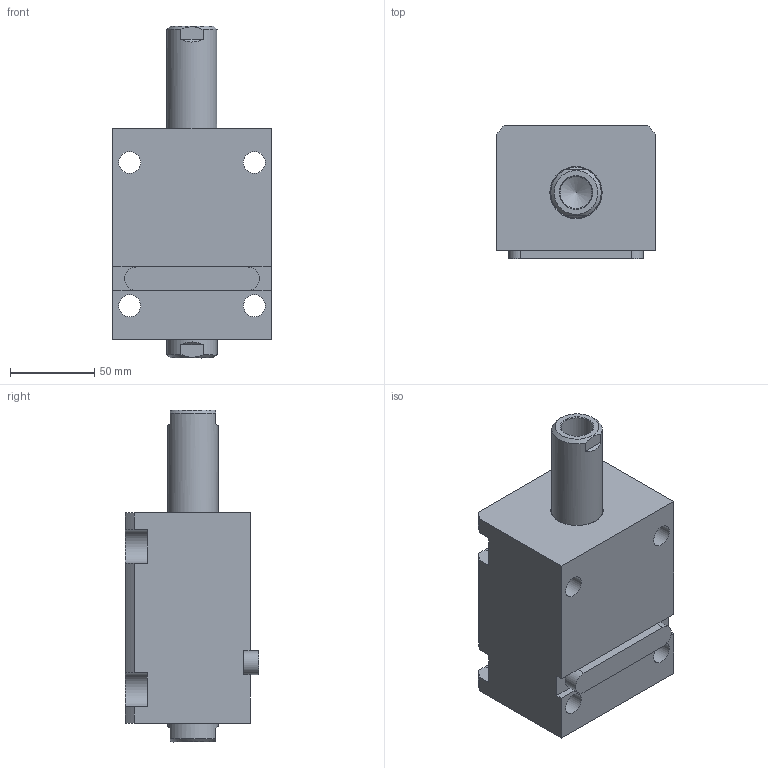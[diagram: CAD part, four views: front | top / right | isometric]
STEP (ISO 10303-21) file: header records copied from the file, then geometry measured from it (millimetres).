
FILE_DESCRIPTION(/* description */ (''),/* implementation_level */ '2;1');
FILE_NAME(/* name */ 'CHTB-LW50-50N.stp',/* time_stamp */ '2022-04-29T18:08:02+08:00',/* author */ (''),/* organization */ (''),/* preprocessor_version */ 'ST-DEVELOPER v16.7',/* originating_system */ 'SIEMENS PLM Software NX 12.0',/* authorisation */ '');
FILE_SCHEMA (('AUTOMOTIVE_DESIGN { 1 0 10303 214 3 1 1 1 }'));
Length unit declared in the file: millimetre
Products named in the file (1): CHTB-LW50-50N
Bounding box: 94 x 79 x 197 mm (x, y, z)
Volume: 784161.7 mm3; surface area: 127996.4 mm2
Topology: 3 solids, 3 shells, 446 faces, 1227 edges, 827 vertices
Faces by surface type: plane 291, extrusion 77, cylinder 44, cone 15, torus 11, bspline 8
Full cylindrical faces by diameter (mm): 4 x2, 5 x2, 10.7 x2, 13 x4, 19 x2, 30 x4, 39 x1, 44 x2, 46 x1, 50 x5, 59 x1
Entity records: 20875 total; most frequent: CARTESIAN_POINT 7962, ORIENTED_EDGE 2312, DIRECTION 1830, EDGE_CURVE 1156, VECTOR 888, VERTEX_POINT 815, LINE 811, EDGE_LOOP 557
